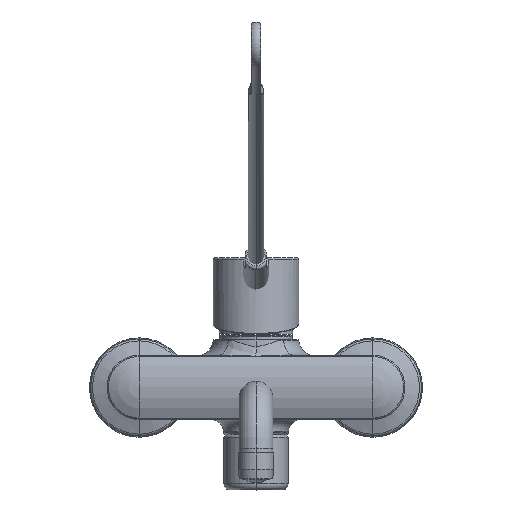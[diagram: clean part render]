
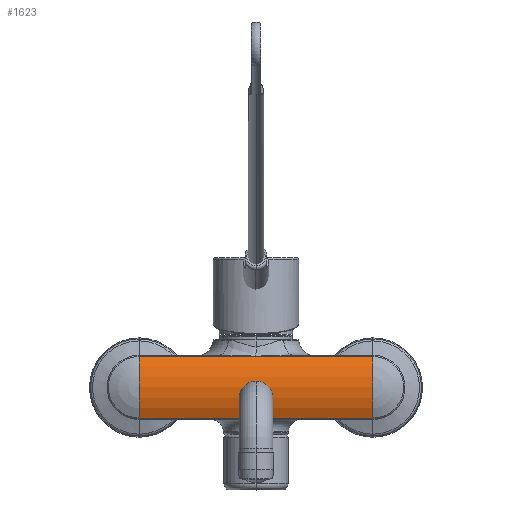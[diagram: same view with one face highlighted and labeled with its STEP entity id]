
A CAD part, top view. The second image highlights one B-rep face of the part: STEP entity #1623.
In plain terms, the highlighted cylindrical face has radius 42 mm (diameter 84 mm), a partial arc.
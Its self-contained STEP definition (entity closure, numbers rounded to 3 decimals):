
#173=CARTESIAN_POINT('',(-76.5,0.,-6.));
#174=DIRECTION('',(1.,0.,0.));
#175=DIRECTION('',(0.,0.,1.));
#176=AXIS2_PLACEMENT_3D('',#173,#174,#175);
#178=CARTESIAN_POINT('',(-76.5,0.,-6.));
#179=DIRECTION('',(-1.,0.,0.));
#180=DIRECTION('',(0.,0.,1.));
#181=AXIS2_PLACEMENT_3D('',#178,#179,#180);
#183=CARTESIAN_POINT('',(76.5,0.,-6.));
#184=DIRECTION('',(1.,0.,0.));
#185=DIRECTION('',(0.,0.479,0.878));
#186=AXIS2_PLACEMENT_3D('',#183,#184,#185);
#188=CARTESIAN_POINT('',(76.5,0.,-6.));
#189=DIRECTION('',(-1.,0.,0.));
#190=DIRECTION('',(0.,-0.479,0.878));
#191=AXIS2_PLACEMENT_3D('',#188,#189,#190);
#348=DIRECTION('',(1.,0.,0.));
#349=VECTOR('',#348,153.);
#350=CARTESIAN_POINT('',(-76.5,20.114,30.87));
#351=LINE('',#350,#349);
#380=DIRECTION('',(-1.,0.,0.));
#381=VECTOR('',#380,153.);
#382=CARTESIAN_POINT('',(76.5,-20.114,30.87));
#383=LINE('',#382,#381);
#1209=CARTESIAN_POINT('',(76.5,20.114,30.87));
#1210=CARTESIAN_POINT('',(76.5,-20.114,30.87));
#1211=VERTEX_POINT('',#1209);
#1212=VERTEX_POINT('',#1210);
#1213=CARTESIAN_POINT('',(-76.5,-20.114,
30.87));
#1214=VERTEX_POINT('',#1213);
#1219=CARTESIAN_POINT('',(-76.5,20.114,30.87));
#1220=VERTEX_POINT('',#1219);
#1221=CARTESIAN_POINT('',(76.5,0.,36.));
#1222=VERTEX_POINT('',#1221);
#1223=CARTESIAN_POINT('',(-76.5,0.,36.));
#1224=VERTEX_POINT('',#1223);
#1604=CARTESIAN_POINT('',(-117.36,0.,-6.));
#1605=DIRECTION('',(-1.,0.,0.));
#1606=DIRECTION('',(0.,0.,-1.));
#1607=AXIS2_PLACEMENT_3D('',#1604,#1605,#1606);
#1608=CYLINDRICAL_SURFACE('',#1607,42.);
#1610=ORIENTED_EDGE('',*,*,#1609,.T.);
#1612=ORIENTED_EDGE('',*,*,#1611,.F.);
#1614=ORIENTED_EDGE('',*,*,#1613,.T.);
#1616=ORIENTED_EDGE('',*,*,#1615,.T.);
#1618=ORIENTED_EDGE('',*,*,#1617,.T.);
#1620=ORIENTED_EDGE('',*,*,#1619,.F.);
#1621=EDGE_LOOP('',(#1610,#1612,#1614,#1616,#1618,#1620));
#1622=FACE_OUTER_BOUND('',#1621,.F.);
#1623=ADVANCED_FACE('',(#1622),#1608,.T.);
#177=CIRCLE('',#176,42.);
#182=CIRCLE('',#181,42.);
#187=CIRCLE('',#186,42.);
#192=CIRCLE('',#191,42.);
#1609=EDGE_CURVE('',#1212,#1214,#383,.T.);
#1611=EDGE_CURVE('',#1224,#1214,#177,.T.);
#1613=EDGE_CURVE('',#1224,#1220,#182,.T.);
#1615=EDGE_CURVE('',#1220,#1211,#351,.T.);
#1617=EDGE_CURVE('',#1211,#1222,#187,.T.);
#1619=EDGE_CURVE('',#1212,#1222,#192,.T.);
